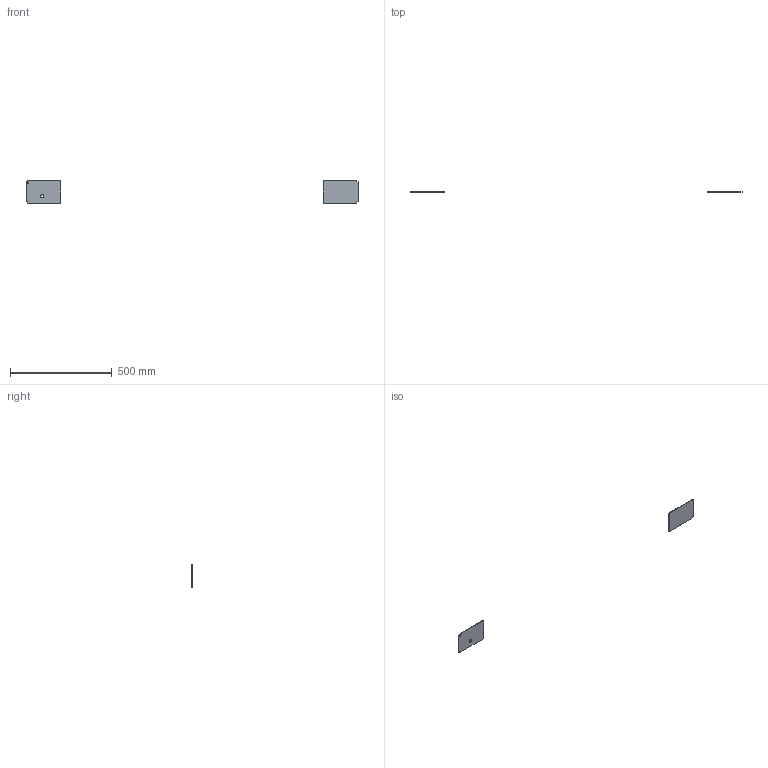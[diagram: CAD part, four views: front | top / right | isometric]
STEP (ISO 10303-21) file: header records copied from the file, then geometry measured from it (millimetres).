
FILE_DESCRIPTION(/* description */ (''),/* implementation_level */ '2;1');
FILE_NAME(/* name */ 'FR3E94~1',/* time_stamp */ '2014-02-14T19:34:28+01:00',/* author */ (''),/* organization */ (''),/* preprocessor_version */ 'ST-DEVELOPER v14',/* originating_system */ '',/* authorisation */ '');
FILE_SCHEMA (('AUTOMOTIVE_DESIGN'));
Length unit declared in the file: millimetre
Products named in the file (1): Document
Bounding box: 1630 x 3 x 110 mm (x, y, z)
Volume: 111179.9 mm3; surface area: 77687.4 mm2
Topology: 2 solids, 2 shells, 24 faces, 60 edges, 40 vertices
Faces by surface type: plane 20, bspline 4
Entity records: 1407 total; most frequent: CARTESIAN_POINT 542, B_SPLINE_CURVE_WITH_KNOTS 160, ORIENTED_EDGE 120, PCURVE 120, DEFINITIONAL_REPRESENTATION 120, SURFACE_CURVE 60, EDGE_CURVE 60, VERTEX_POINT 40
